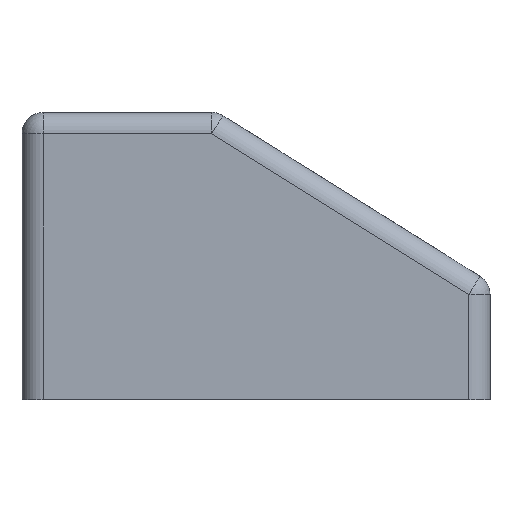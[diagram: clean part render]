
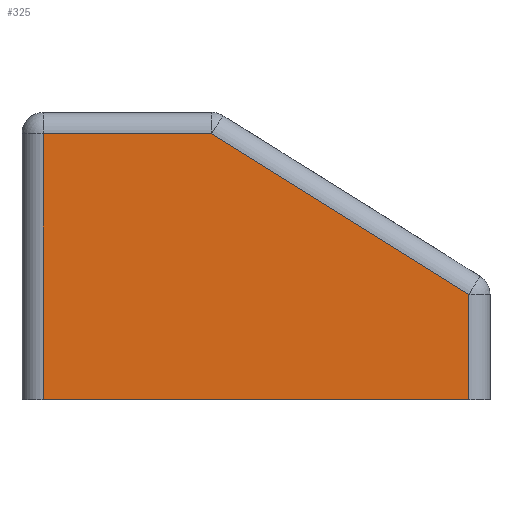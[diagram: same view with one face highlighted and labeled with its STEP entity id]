
A CAD part, left-side view. The second image highlights one B-rep face of the part: STEP entity #325.
In plain terms, the highlighted planar face has unit normal (-1, 0, 0).
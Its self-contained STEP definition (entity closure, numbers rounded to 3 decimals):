
#62 = VERTEX_POINT('',#63);
#63 = CARTESIAN_POINT('',(-65.,5.,2.5));
#224 = VERTEX_POINT('',#225);
#225 = CARTESIAN_POINT('',(-65.,105.,2.5));
#232 = EDGE_CURVE('',#224,#62,#233,.T.);
#233 = LINE('',#234,#235);
#234 = CARTESIAN_POINT('',(-65.,-69.579,2.5));
#235 = VECTOR('',#236,1.);
#236 = DIRECTION('',(0.,-1.,0.));
#305 = VERTEX_POINT('',#306);
#306 = CARTESIAN_POINT('',(-65.,5.,27.229));
#313 = EDGE_CURVE('',#305,#62,#314,.T.);
#314 = LINE('',#315,#316);
#315 = CARTESIAN_POINT('',(-65.,5.,30.));
#316 = VECTOR('',#317,1.);
#317 = DIRECTION('',(0.,0.,-1.));
#325 = ADVANCED_FACE('',(#326),#352,.F.);
#326 = FACE_BOUND('',#327,.F.);
#327 = EDGE_LOOP('',(#328,#329,#330,#338,#346));
#328 = ORIENTED_EDGE('',*,*,#313,.T.);
#329 = ORIENTED_EDGE('',*,*,#232,.F.);
#330 = ORIENTED_EDGE('',*,*,#331,.T.);
#331 = EDGE_CURVE('',#224,#332,#334,.T.);
#332 = VERTEX_POINT('',#333);
#333 = CARTESIAN_POINT('',(-65.,105.,65.));
#334 = LINE('',#335,#336);
#335 = CARTESIAN_POINT('',(-65.,105.,0.));
#336 = VECTOR('',#337,1.);
#337 = DIRECTION('',(0.,0.,1.));
#338 = ORIENTED_EDGE('',*,*,#339,.T.);
#339 = EDGE_CURVE('',#332,#340,#342,.T.);
#340 = VERTEX_POINT('',#341);
#341 = CARTESIAN_POINT('',(-65.,65.434,65.));
#342 = LINE('',#343,#344);
#343 = CARTESIAN_POINT('',(-65.,110.,65.));
#344 = VECTOR('',#345,1.);
#345 = DIRECTION('',(0.,-1.,0.));
#346 = ORIENTED_EDGE('',*,*,#347,.T.);
#347 = EDGE_CURVE('',#340,#305,#348,.T.);
#348 = LINE('',#349,#350);
#349 = CARTESIAN_POINT('',(-65.,66.65,65.76));
#350 = VECTOR('',#351,1.);
#351 = DIRECTION('',(0.,-0.848,-0.53));
#352 = PLANE('',#353);
#353 = AXIS2_PLACEMENT_3D('',#354,#355,#356);
#354 = CARTESIAN_POINT('',(-65.,60.841,29.847));
#355 = DIRECTION('',(1.,0.,0.));
#356 = DIRECTION('',(-0.,0.,1.));
